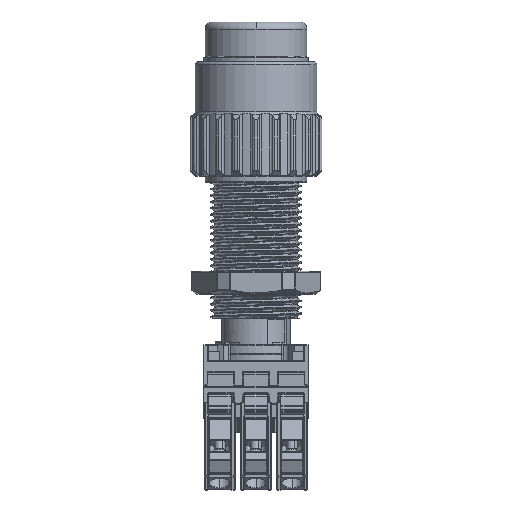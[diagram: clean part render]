
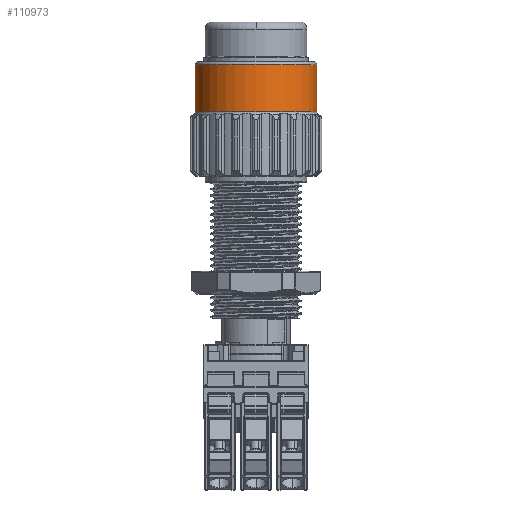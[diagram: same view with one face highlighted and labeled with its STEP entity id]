
A CAD part, top view. The second image highlights one B-rep face of the part: STEP entity #110973.
In plain terms, the highlighted cylindrical face has radius 17.25 mm (diameter 34.5 mm), a partial arc.
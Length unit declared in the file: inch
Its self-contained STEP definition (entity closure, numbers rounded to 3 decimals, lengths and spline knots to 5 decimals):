
#4370 = CIRCLE ( 'NONE', #54256, 0.67913 ) ;
#6996 = CYLINDRICAL_SURFACE ( 'NONE', #118601, 0.67913 ) ;
#8856 = CARTESIAN_POINT ( 'NONE',  ( 0., 0., 1.24803 ) ) ;
#12776 = CARTESIAN_POINT ( 'NONE',  ( 0.67913, 0., 0.72061 ) ) ;
#14821 = DIRECTION ( 'NONE',  ( -1., 0., 0. ) ) ;
#14825 = CIRCLE ( 'NONE', #80089, 0.67913 ) ;
#16025 = FACE_OUTER_BOUND ( 'NONE', #43285, .T. ) ;
#21773 = CARTESIAN_POINT ( 'NONE',  ( 0.67913, 0., 0.68898 ) ) ;
#23251 = DIRECTION ( 'NONE',  ( 0., 0., 1. ) ) ;
#24667 = ORIENTED_EDGE ( 'NONE', *, *, #116016, .T. ) ;
#33486 = ORIENTED_EDGE ( 'NONE', *, *, #73284, .F. ) ;
#35970 = VERTEX_POINT ( 'NONE', #42334 ) ;
#41878 = CARTESIAN_POINT ( 'NONE',  ( 0., 0., 0.72061 ) ) ;
#42334 = CARTESIAN_POINT ( 'NONE',  ( -0.67913, 0., 1.24803 ) ) ;
#43285 = EDGE_LOOP ( 'NONE', ( #24667, #114709, #102040, #33486 ) ) ;
#45482 = DIRECTION ( 'NONE',  ( 0., 0., 1. ) ) ;
#45565 = DIRECTION ( 'NONE',  ( 0., 0., 1. ) ) ;
#53840 = CARTESIAN_POINT ( 'NONE',  ( -0.67913, 0., 0.72061 ) ) ;
#54256 = AXIS2_PLACEMENT_3D ( 'NONE', #41878, #23251, #14821 ) ;
#58116 = VERTEX_POINT ( 'NONE', #53840 ) ;
#63939 = VECTOR ( 'NONE', #95048, 39.37008 ) ;
#71903 = CARTESIAN_POINT ( 'NONE',  ( 0., 0., 0.68898 ) ) ;
#73284 = EDGE_CURVE ( 'NONE', #58116, #35970, #114865, .T. ) ;
#80089 = AXIS2_PLACEMENT_3D ( 'NONE', #8856, #45565, #109793 ) ;
#80710 = EDGE_CURVE ( 'NONE', #35970, #103167, #14825, .T. ) ;
#80874 = VECTOR ( 'NONE', #113099, 39.37008 ) ;
#83745 = CARTESIAN_POINT ( 'NONE',  ( 0.67913, 0., 1.24803 ) ) ;
#95048 = DIRECTION ( 'NONE',  ( 0., 0., 1. ) ) ;
#102040 = ORIENTED_EDGE ( 'NONE', *, *, #80710, .F. ) ;
#103167 = VERTEX_POINT ( 'NONE', #83745 ) ;
#104052 = LINE ( 'NONE', #21773, #63939 ) ;
#107921 = DIRECTION ( 'NONE',  ( -1., 0., 0. ) ) ;
#109793 = DIRECTION ( 'NONE',  ( -1., 0., 0. ) ) ;
#110973 = ADVANCED_FACE ( 'NONE', ( #16025 ), #6996, .T. ) ;
#113099 = DIRECTION ( 'NONE',  ( 0., 0., 1. ) ) ;
#114272 = CARTESIAN_POINT ( 'NONE',  ( -0.67913, 0., 0.68898 ) ) ;
#114709 = ORIENTED_EDGE ( 'NONE', *, *, #116494, .T. ) ;
#114865 = LINE ( 'NONE', #114272, #80874 ) ;
#116016 = EDGE_CURVE ( 'NONE', #58116, #118385, #4370, .T. ) ;
#116494 = EDGE_CURVE ( 'NONE', #118385, #103167, #104052, .T. ) ;
#118385 = VERTEX_POINT ( 'NONE', #12776 ) ;
#118601 = AXIS2_PLACEMENT_3D ( 'NONE', #71903, #45482, #107921 ) ;
